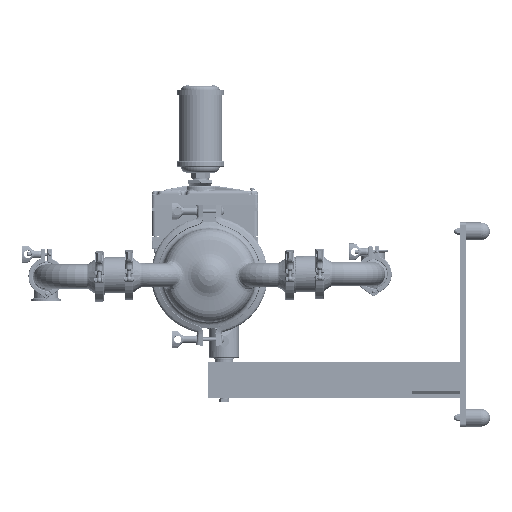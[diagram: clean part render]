
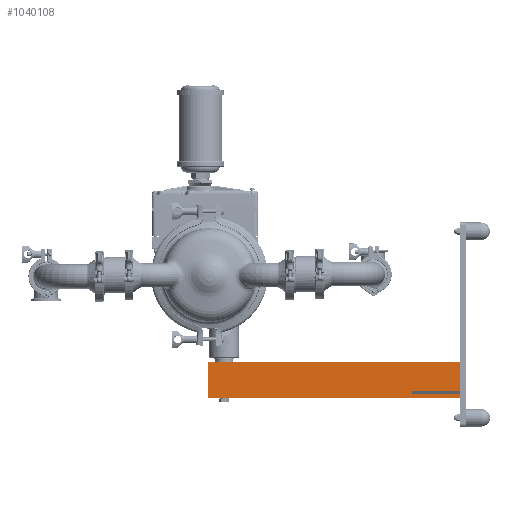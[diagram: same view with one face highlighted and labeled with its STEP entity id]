
A CAD part, left-side view. The second image highlights one B-rep face of the part: STEP entity #1040108.
In plain terms, the highlighted planar face has unit normal (-1, 0, 0).
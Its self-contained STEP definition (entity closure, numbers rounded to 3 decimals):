
#1031453=DIRECTION('',(0.,0.,-1.));
#1031454=VECTOR('',#1031453,2.39);
#1031455=CARTESIAN_POINT('',(-1.,-20.822,-7.236));
#1031456=LINE('',#1031455,#1031454);
#1031485=DIRECTION('',(0.,0.,-1.));
#1031486=VECTOR('',#1031485,0.36);
#1031487=CARTESIAN_POINT('',(-1.,-20.822,-9.876));
#1031488=LINE('',#1031487,#1031486);
#1032021=DIRECTION('',(0.,1.,0.));
#1032022=VECTOR('',#1032021,20.915);
#1032023=CARTESIAN_POINT('',(-1.,-20.822,-10.236));
#1032024=LINE('',#1032023,#1032022);
#1032025=DIRECTION('',(0.,1.,0.));
#1032026=VECTOR('',#1032025,4.);
#1032027=CARTESIAN_POINT('',(-1.,-20.822,-9.626));
#1032028=LINE('',#1032027,#1032026);
#1032029=DIRECTION('',(0.,0.,-1.));
#1032030=VECTOR('',#1032029,0.25);
#1032031=CARTESIAN_POINT('',(-1.,-16.822,-9.626));
#1032032=LINE('',#1032031,#1032030);
#1032033=DIRECTION('',(0.,1.,0.));
#1032034=VECTOR('',#1032033,4.);
#1032035=CARTESIAN_POINT('',(-1.,-20.822,-9.876));
#1032036=LINE('',#1032035,#1032034);
#1032627=DIRECTION('',(0.,1.,0.));
#1032628=VECTOR('',#1032627,20.915);
#1032629=CARTESIAN_POINT('',(-1.,-20.822,-7.236));
#1032630=LINE('',#1032629,#1032628);
#1033213=DIRECTION('',(0.,0.,1.));
#1033214=VECTOR('',#1033213,3.);
#1033215=CARTESIAN_POINT('',(-1.,0.093,-10.236));
#1033216=LINE('',#1033215,#1033214);
#1038918=CARTESIAN_POINT('',(-1.,-20.822,-10.236));
#1038920=VERTEX_POINT('',#1038918);
#1038923=CARTESIAN_POINT('',(-1.,-20.822,-7.236));
#1038925=VERTEX_POINT('',#1038923);
#1038946=CARTESIAN_POINT('',(-1.,-20.822,-9.626));
#1038948=VERTEX_POINT('',#1038946);
#1038950=CARTESIAN_POINT('',(-1.,-20.822,-9.876));
#1038952=VERTEX_POINT('',#1038950);
#1038954=CARTESIAN_POINT('',(-1.,-16.822,-9.626));
#1038955=VERTEX_POINT('',#1038954);
#1038956=CARTESIAN_POINT('',(-1.,-16.822,-9.876));
#1038957=VERTEX_POINT('',#1038956);
#1038959=CARTESIAN_POINT('',(-1.,0.093,-10.236));
#1038961=VERTEX_POINT('',#1038959);
#1038962=CARTESIAN_POINT('',(-1.,0.093,-7.236));
#1038963=VERTEX_POINT('',#1038962);
#1040090=CARTESIAN_POINT('',(-1.,-0.157,-7.236));
#1040091=DIRECTION('',(-1.,0.,0.));
#1040092=DIRECTION('',(0.,0.,-1.));
#1040093=AXIS2_PLACEMENT_3D('',#1040090,#1040091,#1040092);
#1040094=PLANE('',#1040093);
#1040096=ORIENTED_EDGE('',*,*,#1040095,.T.);
#1040098=ORIENTED_EDGE('',*,*,#1040097,.T.);
#1040100=ORIENTED_EDGE('',*,*,#1040099,.F.);
#1040101=ORIENTED_EDGE('',*,*,#1039367,.T.);
#1040102=ORIENTED_EDGE('',*,*,#1040059,.T.);
#1040103=ORIENTED_EDGE('',*,*,#1040072,.T.);
#1040104=ORIENTED_EDGE('',*,*,#1040084,.F.);
#1040105=ORIENTED_EDGE('',*,*,#1039383,.T.);
#1040106=EDGE_LOOP('',(#1040096,#1040098,#1040100,#1040101,#1040102,#1040103,
#1040104,#1040105));
#1040107=FACE_OUTER_BOUND('',#1040106,.F.);
#1040108=ADVANCED_FACE('',(#1040107),#1040094,.T.);
#1039367=EDGE_CURVE('',#1038925,#1038948,#1031456,.T.);
#1039383=EDGE_CURVE('',#1038952,#1038920,#1031488,.T.);
#1040059=EDGE_CURVE('',#1038948,#1038955,#1032028,.T.);
#1040072=EDGE_CURVE('',#1038955,#1038957,#1032032,.T.);
#1040084=EDGE_CURVE('',#1038952,#1038957,#1032036,.T.);
#1040095=EDGE_CURVE('',#1038920,#1038961,#1032024,.T.);
#1040097=EDGE_CURVE('',#1038961,#1038963,#1033216,.T.);
#1040099=EDGE_CURVE('',#1038925,#1038963,#1032630,.T.);
